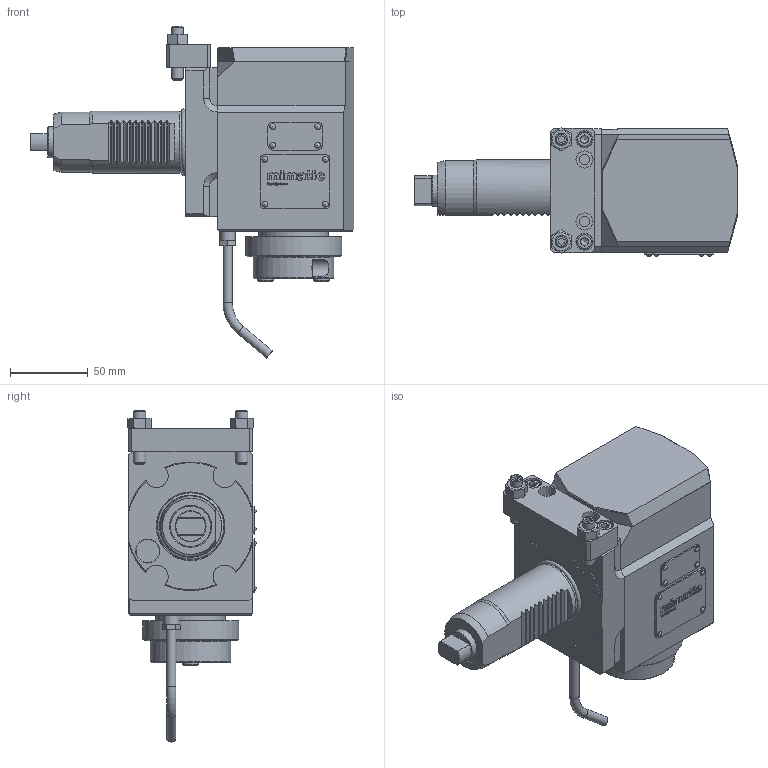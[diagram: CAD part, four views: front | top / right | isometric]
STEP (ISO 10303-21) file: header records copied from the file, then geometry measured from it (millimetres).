
FILE_DESCRIPTION(/* description */ (''),/* implementation_level */ '2;1');
FILE_NAME(/* name */ '124922',/* time_stamp */ '2020-08-11T08:09:14+02:00',/* author */ (''),/* organization */ (''),/* preprocessor_version */ 'ST-DEVELOPER v16.5',/* originating_system */ 'HiCAD 2017 2201.0 Build 268',/* authorisation */ '');
FILE_SCHEMA (('AUTOMOTIVE_DESIGN { 1 0 10303 214 1 1 1 1 }'));
Products named in the file (68): Root; Leeres Teil; 189666_BG-Schaft-EM-C-40_10*; 001_000X_130*; DIN 13-M20x1; 001_000X_260*; 먀옞Ǿ; DIN 913-M 8x35-45H_Gewindwstift DIN 913-M 8x35-45H_427*; ؂ι; ISO 4032-M 8-6_Sechskantmutter ISO 4032-M 8-6_358*; 鹠ꭺy; ͊Ɔ; DIN 912      (Innensechskant)_Zylinderschraube 6x16_405*; GEWINDE; 113985_O-Ring 37.77x2.62_330*; ROTATIONSTEIL_1_120*; DIN 13-M50x1; Leeres Teil_20*; 00087098_340*; DIN 76-M10x1; DIN 913-M 10x1x8-45H_Gewindestifte; ROTATIONSTEIL_0_150*; DIN 13-M15x1; DIN 76-M5; DIN 76-M10; DIN 76-M6; 002_000X_100*; 003_000X_235*; BG_M10; 112485_Überwurfschraube_353*; 112384_Doppelkegelring D6_352*; TORUS_1_354*; 00011769_372*; 113692_Kerbnagel 2x4_380*; QUADER_0_370*
Assembly tree (67 placements, depth 8):
  Root
    Leeres Teil
      189666_BG-Schaft-EM-C-40_10*
        Leeres Teil
          Leeres Teil
            001_000X_130*
              DIN 13-M20x1
        Leeres Teil
          001_000X_260*
            먀옞Ǿ
            먀옞Ǿ
          DIN 913-M 8x35-45H_Gewindwstift DIN 913-M 8x35-45H_427*
            ؂ι
          ISO 4032-M 8-6_Sechskantmutter ISO 4032-M 8-6_358*
            鹠ꭺy
          ISO 4032-M 8-6_Sechskantmutter ISO 4032-M 8-6_358*
            鹠ꭺy
          DIN 913-M 8x35-45H_Gewindwstift DIN 913-M 8x35-45H_427*
            ͊Ɔ
          DIN 912      (Innensechskant)_Zylinderschraube 6x16_405*
            GEWINDE
          DIN 912      (Innensechskant)_Zylinderschraube 6x16_405*
            GEWINDE
        Leeres Teil
          113985_O-Ring 37.77x2.62_330*
        ROTATIONSTEIL_1_120*
          DIN 13-M50x1
      Leeres Teil_20*
        Leeres Teil
          Leeres Teil
            DIN 912      (Innensechskant)_Zylinderschraube 6x16_405*
              GEWINDE
            DIN 912      (Innensechskant)_Zylinderschraube 6x16_405*
              GEWINDE
            00087098_340*
              DIN 76-M10x1
              DIN 913-M 10x1x8-45H_Gewindestifte
                GEWINDE
          Leeres Teil
            ROTATIONSTEIL_0_150*
              DIN 13-M15x1
              DIN 76-M5
              DIN 76-M10
              DIN 76-M6
        Leeres Teil
          Leeres Teil
            002_000X_100*
            003_000X_235*
          Leeres Teil
            Leeres Teil
            BG_M10
              112485_Überwurfschraube_353*
                (unnamed)
              112384_Doppelkegelring D6_352*
              TORUS_1_354*
            Leeres Teil
              Leeres Teil
                00011769_372*
                113692_Kerbnagel 2x4_380*
                113692_Kerbnagel 2x4_380*
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Bounding box: 209 x 82.81 x 214.17 mm (x, y, z)
Volume: 1136415.9 mm3; surface area: 167217.3 mm2
Topology: 45 solids, 45 shells, 1324 faces, 3332 edges, 2199 vertices
Faces by surface type: plane 879, bspline 176, cylinder 175, cone 62, torus 24, sphere 8
Full cylindrical faces by diameter (mm): 2 x8, 2.2 x8, 4 x2, 4.773 x8, 5 x4, 6 x15, 6.466 x8, 6.6 x6, 8 x10, 8.5 x4, 8.773 x2, 9 x2, 10 x10, 11 x6, 20 x2, 25 x2, 25.4 x1, 38.7 x1, 40 x1, 45 x2, 52 x1, 62 x1
Entity records: 76140 total; most frequent: CARTESIAN_POINT 15615, PRESENTATION_STYLE_ASSIGNMENT 6181, COLOUR_RGB 6140, OVER_RIDING_STYLED_ITEM 6137, DRAUGHTING_PRE_DEFINED_CURVE_FONT 6134, CURVE_STYLE 6134, ORIENTED_EDGE 6134, DIRECTION 5510
